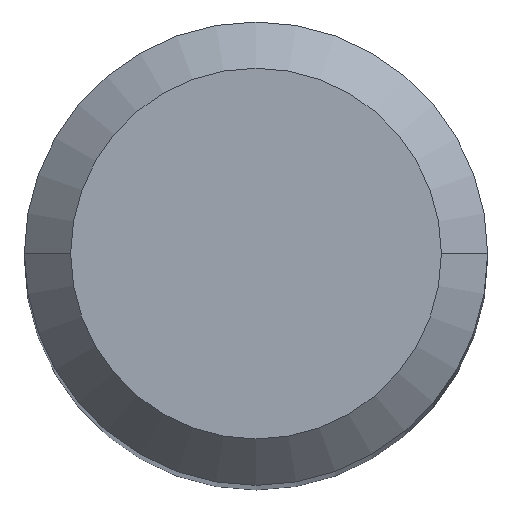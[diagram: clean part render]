
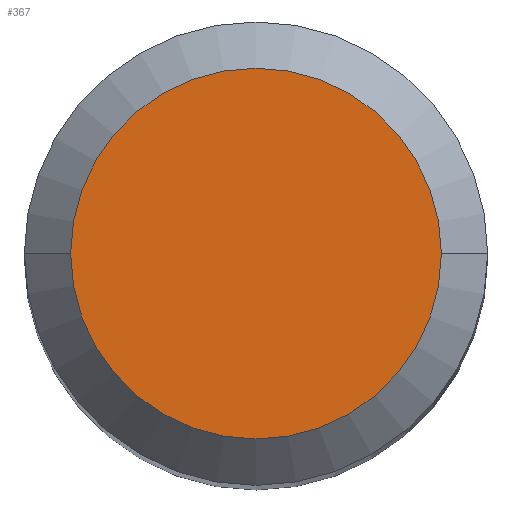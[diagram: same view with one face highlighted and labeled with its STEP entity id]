
A CAD part, top view. The second image highlights one B-rep face of the part: STEP entity #367.
In plain terms, the highlighted planar face has unit normal (0, 0, 1).
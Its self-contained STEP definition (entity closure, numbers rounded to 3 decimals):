
#15 = CARTESIAN_POINT ( 'NONE',  ( 0., 0., 0. ) ) ;
#54 = DIRECTION ( 'NONE',  ( 1., 0., 0. ) ) ;
#128 = AXIS2_PLACEMENT_3D ( 'NONE', #197, #577, #54 ) ;
#141 = ORIENTED_EDGE ( 'NONE', *, *, #545, .F. ) ;
#179 = EDGE_CURVE ( 'NONE', #415, #403, #438, .T. ) ;
#191 = CIRCLE ( 'NONE', #602, 2.4 ) ;
#197 = CARTESIAN_POINT ( 'NONE',  ( 0., 2.4, 0. ) ) ;
#200 = DIRECTION ( 'NONE',  ( -1., 0., 0. ) ) ;
#207 = DIRECTION ( 'NONE',  ( 0., 0., -1. ) ) ;
#295 = ORIENTED_EDGE ( 'NONE', *, *, #179, .F. ) ;
#347 = PLANE ( 'NONE',  #128 ) ;
#366 = CARTESIAN_POINT ( 'NONE',  ( 0., 0., 0. ) ) ;
#367 = ADVANCED_FACE ( 'NONE', ( #580 ), #347, .T. ) ;
#375 = EDGE_LOOP ( 'NONE', ( #141, #295 ) ) ;
#403 = VERTEX_POINT ( 'NONE', #488 ) ;
#404 = DIRECTION ( 'NONE',  ( -1., 0., 0. ) ) ;
#411 = DIRECTION ( 'NONE',  ( 0., 0., -1. ) ) ;
#415 = VERTEX_POINT ( 'NONE', #535 ) ;
#417 = AXIS2_PLACEMENT_3D ( 'NONE', #15, #207, #404 ) ;
#438 = CIRCLE ( 'NONE', #417, 2.4 ) ;
#488 = CARTESIAN_POINT ( 'NONE',  ( -2.4, 0., 0. ) ) ;
#535 = CARTESIAN_POINT ( 'NONE',  ( 2.4, 0., 0. ) ) ;
#545 = EDGE_CURVE ( 'NONE', #403, #415, #191, .T. ) ;
#577 = DIRECTION ( 'NONE',  ( 0., 0., 1. ) ) ;
#580 = FACE_OUTER_BOUND ( 'NONE', #375, .T. ) ;
#602 = AXIS2_PLACEMENT_3D ( 'NONE', #366, #411, #200 ) ;
